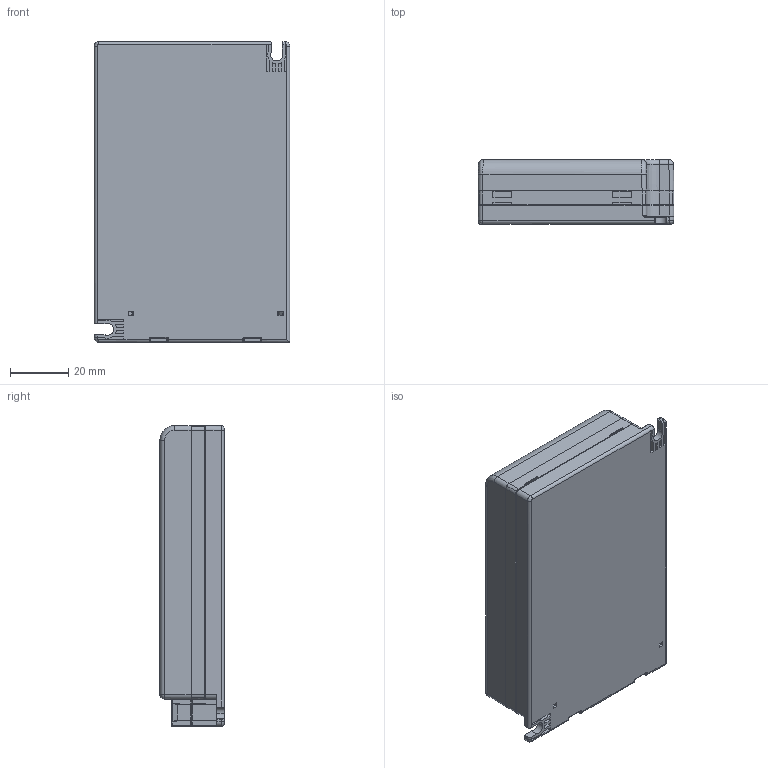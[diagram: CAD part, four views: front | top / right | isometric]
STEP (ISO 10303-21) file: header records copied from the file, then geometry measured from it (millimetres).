
FILE_DESCRIPTION (( 'STEP AP214' ), '1' );
FILE_NAME ('OT FIT LT2.STEP', '2017-08-22T10:04:39', ( '' ), ( '' ), 'SwSTEP 2.0', 'SolidWorks 2015', '' );
FILE_SCHEMA (( 'AUTOMOTIVE_DESIGN' ));
Length unit declared in the file: millimetre
Products named in the file (1): OT FIT LT2
Bounding box: 67 x 22 x 103 mm (x, y, z)
Volume: 43977.1 mm3; surface area: 55103.2 mm2
Topology: 1 solids, 1 shells, 2465 faces, 6392 edges, 3921 vertices
Faces by surface type: plane 1076, cylinder 619, bspline 552, sphere 129, torus 57, cone 32
Entity records: 120734 total; most frequent: CARTESIAN_POINT 38174, ORIENTED_EDGE 12572, DIRECTION 9887, EDGE_CURVE 6286, VERTEX_POINT 3921, VECTOR 3793, LINE 3793, AXIS2_PLACEMENT_3D 3047
